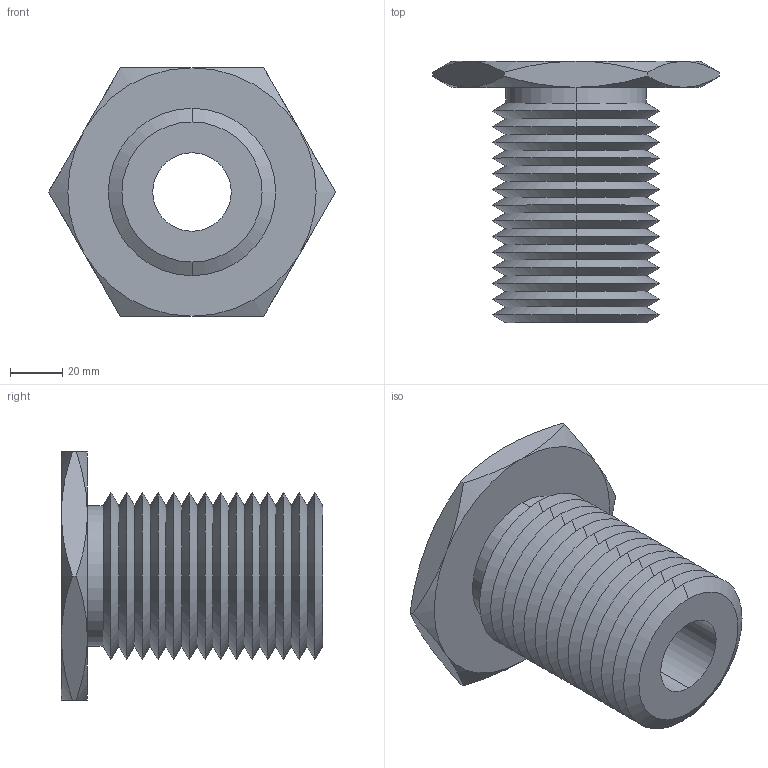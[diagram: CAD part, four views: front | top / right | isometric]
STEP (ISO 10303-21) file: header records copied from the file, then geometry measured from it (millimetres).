
FILE_DESCRIPTION (( 'STEP AP203' ), '1' );
FILE_NAME ('63302.W0064_M30x3,5.step', '2013-12-08T11:25:18', ( 'User' ), ( '' ), 'SwSTEP 2.0', 'SolidWorks 2009', '' );
FILE_SCHEMA (( 'CONFIG_CONTROL_DESIGN' ));
Length unit declared in the file: millimetre
Products named in the file (1): 63302.W0064_M30x3,5
Bounding box: 109.7 x 100 x 95 mm (x, y, z)
Volume: 247254.8 mm3; surface area: 58070.2 mm2
Topology: 1 solids, 1 shells, 83 faces, 170 edges, 90 vertices
Faces by surface type: cone 70, plane 9, cylinder 4
Entity records: 2371 total; most frequent: CARTESIAN_POINT 560, DIRECTION 392, ORIENTED_EDGE 340, EDGE_CURVE 170, AXIS2_PLACEMENT_3D 162, VERTEX_POINT 90, EDGE_LOOP 86, ADVANCED_FACE 83
